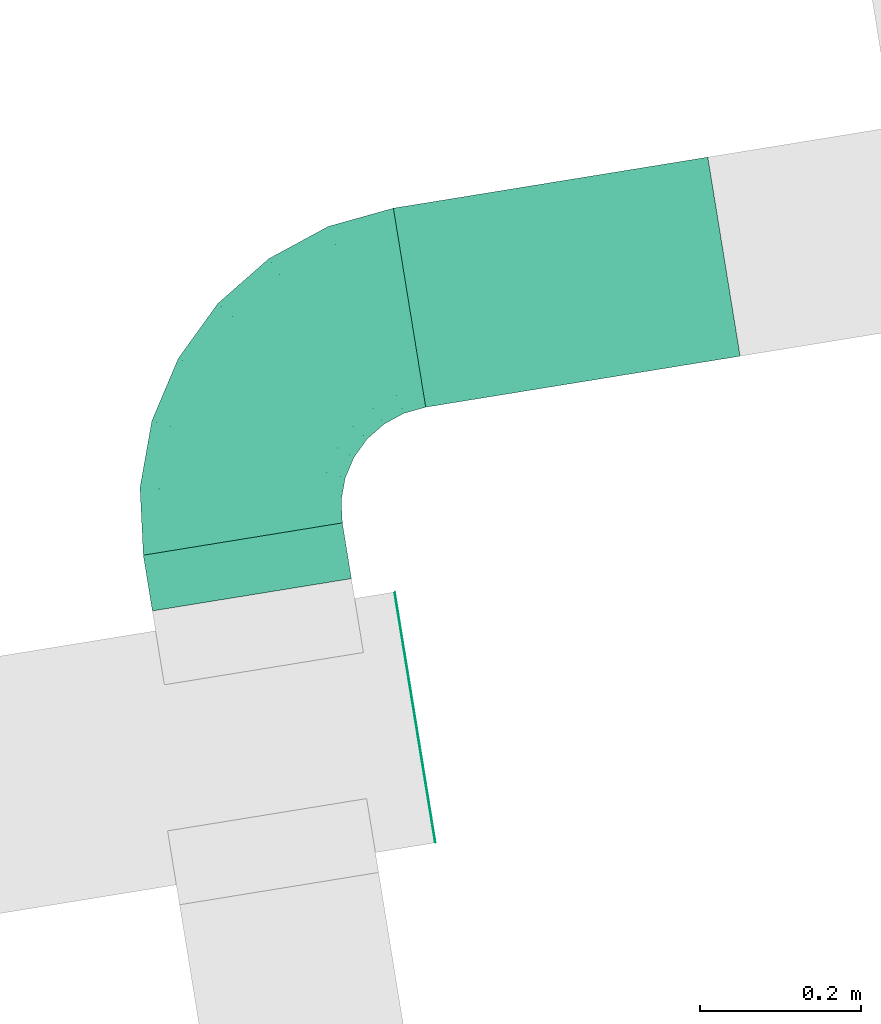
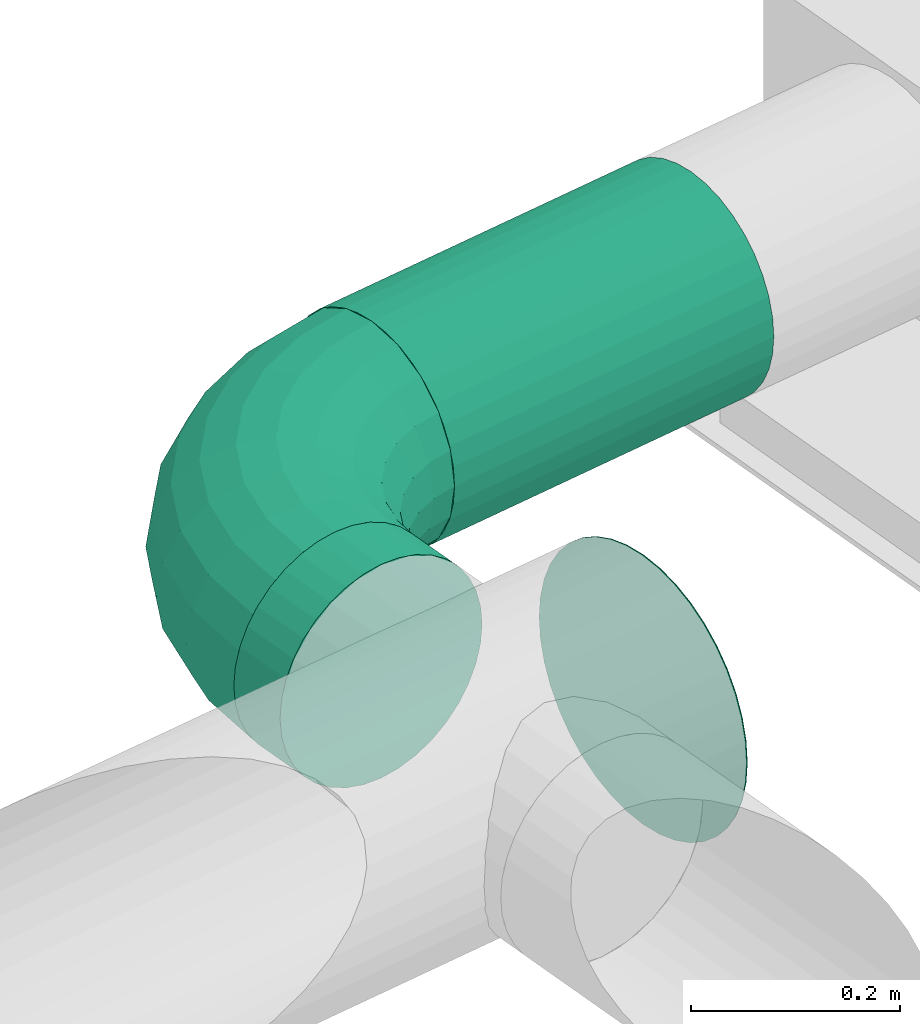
# One storey, part 23 of 39: 2 flow fittings, 2 flow segments.
"""IFC2X3 building model written with IfcOpenShell, lengths in millimetres."""

from ifc_helpers import new_model, entity, si_unit, converted_unit, derived_unit, direction, frame, frame_2d, origin, origin_with_axes, origin_2d_with_axis, place, context, subcontext, project, spatial, circle, extrude, faceted_brep, source, transform, mapped, material, type_object, element, save


model = new_model("IFC2X3")

# Units and contexts
plan_context = context("Plan", 3, precision=1e-05, world=origin_with_axes())
model_context = context("Model", 3, precision=0.01, world=origin(), true_north=direction((6.12323399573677e-17, 1.0)))
body_context = subcontext(model_context, "Body", "Model", "MODEL_VIEW")
ifc_project = project(units=[converted_unit("PLANEANGLEUNIT", "DEGREE", entity("IfcPositiveLengthMeasure", 0.0174532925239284), si_unit("PLANEANGLEUNIT", "RADIAN"), dimensions=[0, 0, 0, 0, 0, 0, 0]), si_unit("AREAUNIT", "SQUARE_METRE"), si_unit("LENGTHUNIT", "METRE", prefix="MILLI"), si_unit("MASSUNIT", "GRAM", prefix="KILO"), si_unit("POWERUNIT", "WATT"), si_unit("PRESSUREUNIT", "PASCAL", prefix="KILO"), si_unit("FORCEUNIT", "NEWTON", prefix="KILO"), si_unit("ELECTRICVOLTAGEUNIT", "VOLT"), si_unit("ELECTRICCURRENTUNIT", "AMPERE"), si_unit("THERMODYNAMICTEMPERATUREUNIT", "DEGREE_CELSIUS"), si_unit("TIMEUNIT", "SECOND"), si_unit("VOLUMEUNIT", "CUBIC_METRE"), derived_unit("LINEARVELOCITYUNIT", [(si_unit("LENGTHUNIT", "METRE"), 1), (si_unit("TIMEUNIT", "SECOND"), -1)]), derived_unit("VOLUMETRICFLOWRATEUNIT", [(si_unit("VOLUMEUNIT", "CUBIC_METRE"), 1), (si_unit("TIMEUNIT", "SECOND"), -1)]), derived_unit("THERMALTRANSMITTANCEUNIT", [(si_unit("POWERUNIT", "WATT"), 1), (si_unit("THERMODYNAMICTEMPERATUREUNIT", "KELVIN"), -1), (si_unit("AREAUNIT", "SQUARE_METRE"), -1)]), derived_unit("SOUNDPRESSUREUNIT", [(si_unit("PRESSUREUNIT", "PASCAL"), 1)])], contexts=[model_context, plan_context])

# Site, building, storey
site_placement = place(None, frame((-0.00071070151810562, 0.00438415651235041, 0.0), z_axis=(0.0, 0.0, 1.0), x_axis=(-0.160236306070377, 0.987078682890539, 0.0)))
site = spatial("IfcSite", under=ifc_project, at=site_placement, Name="Default", CompositionType="ELEMENT")
building_placement = place(site_placement, origin_with_axes())
building = spatial("IfcBuilding", under=site, at=building_placement, CompositionType="ELEMENT")
storey_placement = place(building_placement, frame((0.0, 0.0, 58999.9999999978), z_axis=(0.0, 0.0, 1.0), x_axis=(1.0, 0.0, 0.0)))
storey = spatial("IfcBuildingStorey", under=building, at=storey_placement, Name="Nivå F", CompositionType="ELEMENT", Elevation=58999.9999999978)

# Flow fittings
ifc_material_1 = material(Name="<Unnamed>")
duct_fitting_type_1 = type_object("IfcDuctFittingType", Name="magicirc_elbow_full_radius_1:magicirc_elbow_full_radius_001", PredefinedType="NOTDEFINED", material=ifc_material_1)
shared_shape_1 = source(origin(), body_context, "Body", "Brep", [
    faceted_brep([(-166.554649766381, -115.597967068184, 0.0), (-167.916018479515, -109.633421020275, 38.6271242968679), (-250.0, -118.882064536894, 38.6271242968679), (-250.0, -125.0, 0.0), (-171.866864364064, -92.3236342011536, 73.4731565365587), (-250.0, -101.127124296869, 73.4731565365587), (-178.020451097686, -65.363009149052, 101.127124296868), (-250.0, -73.4731565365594, 101.127124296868), (-185.774422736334, -31.3906396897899, 118.882064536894), (-250.0, -38.6271242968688, 118.882064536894), (-194.36976651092, 6.26802195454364, 125.0), (-250.0, 0.0, 125.0), (-202.965110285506, 43.9266835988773, 118.882064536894), (-250.0, 38.6271242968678, 118.882064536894), (-210.719081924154, 77.8990530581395, 101.127124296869), (-250.0, 73.4731565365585, 101.127124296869), (-216.872668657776, 104.859678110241, 73.4731565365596), (-250.0, 101.127124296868, 73.4731565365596), (-220.823514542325, 122.169464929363, 38.6271242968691), (-250.0, 118.882064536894, 38.6271242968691), (-222.18488325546, 128.134010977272, 0.0), (-250.0, 125.0, 0.0), (-220.823514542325, 122.169464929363, -38.6271242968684), (-250.0, 118.882064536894, -38.6271242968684), (-216.872668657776, 104.859678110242, -73.473156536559), (-250.0, 101.127124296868, -73.473156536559), (-210.719081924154, 77.8990530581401, -101.127124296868), (-250.0, 73.4731565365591, -101.127124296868), (-202.965110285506, 43.926683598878, -118.882064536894), (-250.0, 38.6271242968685, -118.882064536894), (-194.36976651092, 6.26802195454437, -125.0), (-250.0, 0.0, -125.0), (-185.774422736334, -31.3906396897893, -118.882064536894), (-250.0, -38.6271242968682, -118.882064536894), (-178.020451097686, -65.3630091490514, -101.127124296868), (-250.0, -73.4731565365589, -101.127124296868), (-171.866864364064, -92.3236342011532, -73.4731565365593), (-250.0, -101.127124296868, -73.4731565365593), (-167.916018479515, -109.633421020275, -38.6271242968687), (-250.0, -118.882064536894, -38.6271242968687), (-87.2935978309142, -87.8633254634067, 0.0), (-89.9480705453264, -82.3512560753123, 38.6271242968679), (-97.6516504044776, -66.3546076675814, 73.4731565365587), (-109.650257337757, -41.4392436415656, 101.127124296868), (-124.769384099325, -10.0440534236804, 118.882064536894), (-141.529065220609, 24.7577830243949, 125.0), (-158.288746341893, 59.5596194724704, 118.882064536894), (-173.407873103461, 90.9548096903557, 101.127124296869), (-185.406480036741, 115.870173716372, 73.4731565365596), (-193.110059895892, 131.866822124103, 38.6271242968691), (-195.764532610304, 137.378891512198, 0.0), (-193.110059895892, 131.866822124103, -38.6271242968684), (-185.406480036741, 115.870173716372, -73.473156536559), (-173.407873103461, 90.9548096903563, -101.127124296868), (-158.288746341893, 59.5596194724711, -118.882064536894), (-141.529065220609, 24.7577830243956, -125.0), (-124.769384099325, -10.0440534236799, -118.882064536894), (-109.650257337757, -41.4392436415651, -101.127124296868), (-97.6516504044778, -66.354607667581, -73.4731565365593), (-89.9480705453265, -82.3512560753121, -38.6271242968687), (-16.1913243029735, -43.1868059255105, 0.0), (-20.0057946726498, -38.4036113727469, 38.6271242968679), (-31.0758188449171, -24.5222401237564, 73.4731565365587), (-48.3177857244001, -2.90149751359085, 101.127124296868), (-70.0439314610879, 24.3422275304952, 118.882064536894), (-94.127549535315, 54.5421293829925, 125.0), (-118.211167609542, 84.7420312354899, 118.882064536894), (-139.93731334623, 111.985756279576, 101.127124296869), (-157.179280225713, 133.606498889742, 73.4731565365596), (-168.249304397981, 147.487870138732, 38.6271242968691), (-172.063774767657, 152.271064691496, 0.0), (-168.249304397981, 147.487870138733, -38.6271242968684), (-157.179280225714, 133.606498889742, -73.473156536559), (-139.937313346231, 111.985756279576, -101.127124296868), (-118.211167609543, 84.7420312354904, -118.882064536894), (-94.1275495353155, 54.5421293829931, -125.0), (-70.0439314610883, 24.3422275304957, -118.882064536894), (-48.3177857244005, -2.9014975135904, -101.127124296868), (-31.0758188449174, -24.5222401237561, -73.4731565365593), (-20.00579467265, -38.4036113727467, -38.6271242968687), (43.1868059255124, 16.1913243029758, 0.0), (38.4036113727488, 20.005794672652, 38.6271242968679), (24.5222401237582, 31.0758188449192, 73.4731565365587), (2.9014975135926, 48.3177857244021, 101.127124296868), (-24.3422275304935, 70.0439314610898, 118.882064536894), (-54.5421293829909, 94.1275495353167, 125.0), (-84.7420312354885, 118.211167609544, 118.882064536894), (-111.985756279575, 139.937313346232, 101.127124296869), (-133.60649888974, 157.179280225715, 73.4731565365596), (-147.487870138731, 168.249304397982, 38.6271242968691), (-152.271064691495, 172.063774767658, 0.0), (-147.487870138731, 168.249304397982, -38.6271242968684), (-133.606498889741, 157.179280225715, -73.473156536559), (-111.985756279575, 139.937313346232, -101.127124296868), (-84.742031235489, 118.211167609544, -118.882064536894), (-54.5421293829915, 94.1275495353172, -125.0), (-24.342227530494, 70.0439314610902, -118.882064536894), (2.90149751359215, 48.3177857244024, -101.127124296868), (24.5222401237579, 31.0758188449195, -73.4731565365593), (38.4036113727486, 20.0057946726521, -38.6271242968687), (87.8633254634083, 87.2935978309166, 0.0), (82.3512560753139, 89.9480705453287, 38.6271242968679), (66.3546076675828, 97.6516504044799, 73.4731565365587), (41.4392436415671, 109.650257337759, 101.127124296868), (10.0440534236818, 124.769384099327, 118.882064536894), (-24.7577830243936, 141.529065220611, 125.0), (-59.5596194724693, 158.288746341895, 118.882064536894), (-90.9548096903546, 173.407873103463, 101.127124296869), (-115.870173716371, 185.406480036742, 73.4731565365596), (-131.866822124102, 193.110059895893, 38.6271242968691), (-137.378891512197, 195.764532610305, 0.0), (-131.866822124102, 193.110059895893, -38.6271242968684), (-115.870173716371, 185.406480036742, -73.473156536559), (-90.9548096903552, 173.407873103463, -101.127124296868), (-59.5596194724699, 158.288746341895, -118.882064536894), (-24.7577830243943, 141.529065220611, -125.0), (10.0440534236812, 124.769384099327, -118.882064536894), (41.4392436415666, 109.650257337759, -101.127124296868), (66.3546076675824, 97.65165040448, -73.4731565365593), (82.3512560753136, 89.9480705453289, -38.6271242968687), (115.597967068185, 166.554649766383, 0.0), (109.633421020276, 167.916018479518, 38.6271242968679), (92.3236342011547, 171.866864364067, 73.4731565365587), (65.3630091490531, 178.020451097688, 101.127124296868), (31.390639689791, 185.774422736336, 118.882064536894), (-6.26802195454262, 194.369766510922, 125.0), (-43.9266835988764, 202.965110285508, 118.882064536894), (-77.8990530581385, 210.719081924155, 101.127124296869), (-104.85967811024, 216.872668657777, 73.4731565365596), (-122.169464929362, 220.823514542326, 38.6271242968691), (-128.134010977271, 222.184883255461, 0.0), (-122.169464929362, 220.823514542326, -38.6271242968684), (-104.859678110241, 216.872668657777, -73.473156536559), (-77.8990530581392, 210.719081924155, -101.127124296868), (-43.926683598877, 202.965110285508, -118.882064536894), (-6.26802195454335, 194.369766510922, -125.0), (31.3906396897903, 185.774422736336, -118.882064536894), (65.3630091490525, 178.020451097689, -101.127124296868), (92.3236342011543, 171.866864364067, -73.4731565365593), (109.633421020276, 167.916018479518, -38.6271242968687), (125.0, 250.0, 0.0), (118.882064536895, 250.0, 38.6271242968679), (101.127124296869, 250.0, 73.4731565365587), (73.4731565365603, 250.0, 101.127124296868), (38.6271242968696, 250.0, 118.882064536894), (0.0, 250.0, 125.0), (-38.627124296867, 250.0, 118.882064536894), (-73.4731565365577, 250.0, 101.127124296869), (-101.127124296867, 250.0, 73.4731565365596), (-118.882064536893, 250.0, 38.6271242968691), (-125.0, 250.0, 0.0), (-118.882064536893, 250.0, -38.6271242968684), (-101.127124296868, 250.0, -73.473156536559), (-73.4731565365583, 250.0, -101.127124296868), (-38.6271242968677, 250.0, -118.882064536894), (0.0, 250.0, -125.0), (38.627124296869, 250.0, -118.882064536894), (73.4731565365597, 250.0, -101.127124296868), (101.127124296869, 250.0, -73.4731565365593), (118.882064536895, 250.0, -38.6271242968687)], [[[0, 1, 2, 3]], [[1, 4, 5, 2]], [[4, 6, 7, 5]], [[6, 8, 9, 7]], [[8, 10, 11, 9]], [[10, 12, 13, 11]], [[12, 14, 15, 13]], [[14, 16, 17, 15]], [[16, 18, 19, 17]], [[18, 20, 21, 19]], [[20, 22, 23, 21]], [[22, 24, 25, 23]], [[24, 26, 27, 25]], [[26, 28, 29, 27]], [[28, 30, 31, 29]], [[30, 32, 33, 31]], [[32, 34, 35, 33]], [[34, 36, 37, 35]], [[36, 38, 39, 37]], [[38, 0, 3, 39]], [[40, 41, 1, 0]], [[41, 42, 4, 1]], [[42, 43, 6, 4]], [[43, 44, 8, 6]], [[44, 45, 10, 8]], [[45, 46, 12, 10]], [[46, 47, 14, 12]], [[47, 48, 16, 14]], [[48, 49, 18, 16]], [[49, 50, 20, 18]], [[50, 51, 22, 20]], [[51, 52, 24, 22]], [[52, 53, 26, 24]], [[53, 54, 28, 26]], [[54, 55, 30, 28]], [[55, 56, 32, 30]], [[56, 57, 34, 32]], [[57, 58, 36, 34]], [[58, 59, 38, 36]], [[59, 40, 0, 38]], [[60, 61, 41, 40]], [[61, 62, 42, 41]], [[62, 63, 43, 42]], [[63, 64, 44, 43]], [[64, 65, 45, 44]], [[65, 66, 46, 45]], [[66, 67, 47, 46]], [[67, 68, 48, 47]], [[68, 69, 49, 48]], [[69, 70, 50, 49]], [[70, 71, 51, 50]], [[71, 72, 52, 51]], [[72, 73, 53, 52]], [[73, 74, 54, 53]], [[74, 75, 55, 54]], [[75, 76, 56, 55]], [[76, 77, 57, 56]], [[77, 78, 58, 57]], [[78, 79, 59, 58]], [[79, 60, 40, 59]], [[80, 81, 61, 60]], [[81, 82, 62, 61]], [[82, 83, 63, 62]], [[83, 84, 64, 63]], [[84, 85, 65, 64]], [[85, 86, 66, 65]], [[86, 87, 67, 66]], [[87, 88, 68, 67]], [[88, 89, 69, 68]], [[89, 90, 70, 69]], [[90, 91, 71, 70]], [[91, 92, 72, 71]], [[92, 93, 73, 72]], [[93, 94, 74, 73]], [[94, 95, 75, 74]], [[95, 96, 76, 75]], [[96, 97, 77, 76]], [[97, 98, 78, 77]], [[98, 99, 79, 78]], [[99, 80, 60, 79]], [[100, 101, 81, 80]], [[101, 102, 82, 81]], [[102, 103, 83, 82]], [[103, 104, 84, 83]], [[104, 105, 85, 84]], [[105, 106, 86, 85]], [[106, 107, 87, 86]], [[107, 108, 88, 87]], [[108, 109, 89, 88]], [[109, 110, 90, 89]], [[110, 111, 91, 90]], [[111, 112, 92, 91]], [[112, 113, 93, 92]], [[113, 114, 94, 93]], [[114, 115, 95, 94]], [[115, 116, 96, 95]], [[116, 117, 97, 96]], [[117, 118, 98, 97]], [[118, 119, 99, 98]], [[119, 100, 80, 99]], [[120, 121, 101, 100]], [[121, 122, 102, 101]], [[122, 123, 103, 102]], [[123, 124, 104, 103]], [[124, 125, 105, 104]], [[125, 126, 106, 105]], [[126, 127, 107, 106]], [[127, 128, 108, 107]], [[128, 129, 109, 108]], [[129, 130, 110, 109]], [[130, 131, 111, 110]], [[131, 132, 112, 111]], [[132, 133, 113, 112]], [[133, 134, 114, 113]], [[134, 135, 115, 114]], [[135, 136, 116, 115]], [[136, 137, 117, 116]], [[137, 138, 118, 117]], [[138, 139, 119, 118]], [[139, 120, 100, 119]], [[140, 141, 121, 120]], [[141, 142, 122, 121]], [[142, 143, 123, 122]], [[143, 144, 124, 123]], [[144, 145, 125, 124]], [[145, 146, 126, 125]], [[146, 147, 127, 126]], [[147, 148, 128, 127]], [[148, 149, 129, 128]], [[149, 150, 130, 129]], [[150, 151, 131, 130]], [[151, 152, 132, 131]], [[152, 153, 133, 132]], [[153, 154, 134, 133]], [[154, 155, 135, 134]], [[155, 156, 136, 135]], [[156, 157, 137, 136]], [[157, 158, 138, 137]], [[158, 159, 139, 138]], [[159, 140, 120, 139]], [[3, 2, 5, 7, 9, 11, 13, 15, 17, 19, 21, 23, 25, 27, 29, 31, 33, 35, 37, 39]], [[159, 158, 157, 156, 155, 154, 153, 152, 151, 150, 149, 148, 147, 146, 145, 144, 143, 142, 141, 140]]]),
])
flow_fitting_1_placement = place(storey_placement, frame((778500.119644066, -506116.06200566, 3130.0), z_axis=(0.0, 0.0, 1.0), x_axis=(0.0, 1.0, 0.0)))
element("IfcFlowFitting", 1, at=flow_fitting_1_placement, inside=storey, type_object=duct_fitting_type_1, material=ifc_material_1, Name="magicirc_elbow_full_radius_1:magicirc_elbow_full_radius_001", ObjectType="magicirc_elbow_full_radius_1:magicirc_elbow_full_radius_001", context=body_context, shape_type="MappedRepresentation", body=[
    mapped(shared_shape_1, transform((0.0, 0.0, 0.0), scale=1.0)),
])
ifc_material_2 = material(Name="DF_Material1")
duct_fitting_type_2 = type_object("IfcDuctFittingType", Name="Endcap 5521:Lindab EPF", PredefinedType="NOTDEFINED", material=ifc_material_2)
shared_shape_2 = source(origin(), body_context, "Body", "SweptSolid", [
    extrude(circle(Radius=157.500000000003, at=frame_2d((-1.7386373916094e-13, -7.58786676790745e-13), x_axis=(1.0, 0.0))), frame((0.0, 0.0, 0.0), z_axis=(1.0, 0.0, 0.0), x_axis=(0.0, 1.0, 0.0)), (0.0, 0.0, 1.0), 0.800000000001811),
])
flow_fitting_2_placement = place(storey_placement, frame((777997.619644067, -506290.980498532, 3130.0), z_axis=(0.0, 0.0, 1.0), x_axis=(0.0, -1.0, 0.0)))
element("IfcFlowFitting", 2, at=flow_fitting_2_placement, inside=storey, type_object=duct_fitting_type_2, material=ifc_material_2, Name="Endcap 5521:Lindab EPF", ObjectType="Endcap 5521:Lindab EPF", context=body_context, shape_type="MappedRepresentation", body=[
    mapped(shared_shape_2, transform((0.0, 0.0, 0.0), scale=1.0)),
])

# Flow segments
duct_segment_type = type_object("IfcDuctSegmentType", Name="Round Duct:KK001T - Spiro kanaler, Forsinket stål", PredefinedType="NOTDEFINED")
flow_segment_1_placement = place(storey_placement, origin_with_axes())
element("IfcFlowSegment", 3, at=flow_segment_1_placement, inside=storey, type_object=duct_segment_type, Name="Round Duct:KK001T - Spiro kanaler, Forsinket stål", ObjectType="Round Duct:KK001T - Spiro kanaler, Forsinket stål", context=body_context, shape_type="SweptSolid", body=[
    extrude(circle(Radius=125.0, at=origin_2d_with_axis()), frame((778500.119644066, -506760.980498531, 3130.0), z_axis=(0.0, 1.0, 0.0), x_axis=(1.0, 0.0, 0.0)), (0.0, 0.0, 1.0), 394.918492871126),
])
flow_segment_2_placement = place(storey_placement, origin_with_axes())
element("IfcFlowSegment", 4, at=flow_segment_2_placement, inside=storey, type_object=duct_segment_type, Name="Round Duct:KK001T - Spiro kanaler, Forsinket stål", ObjectType="Round Duct:KK001T - Spiro kanaler, Forsinket stål", context=body_context, shape_type="SweptSolid", body=[
    extrude(circle(Radius=125.0, at=origin_2d_with_axis()), frame((778180.119644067, -506116.06200566, 3130.0), z_axis=(1.0, 0.0, 0.0), x_axis=(0.0, -1.0, 0.0)), (0.0, 0.0, 1.0), 69.9999999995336),
])

save(model, "model.ifc")
